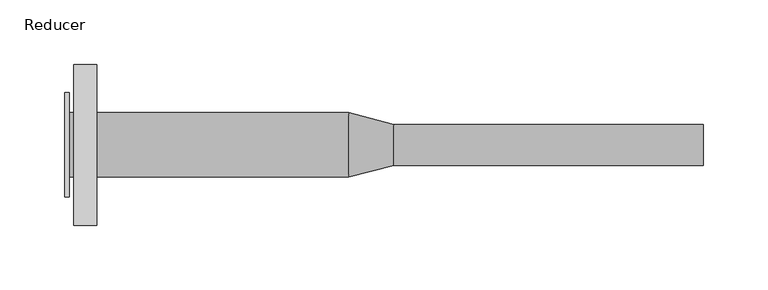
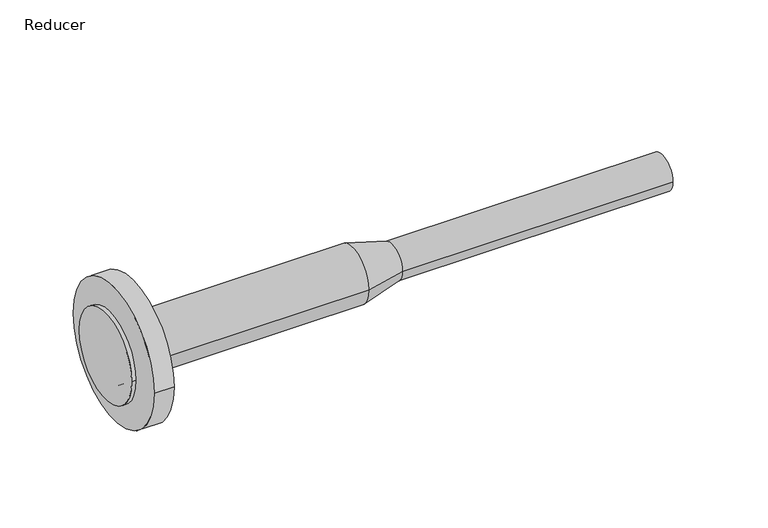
"""IFC4 building model written with IfcOpenShell, lengths in millimetres: pipe fitting geometry, Plumbing-Pipe-Fittings_Pexgol_Reducer : Reducer."""

from ifc_helpers import new_model, si_unit, point, frame, origin, origin_2d, place, context, project, spatial, polyline, circle_curve, trimmed, segment, composite_curve, outline, extrude, source, transform, mapped, element, save
from ifc_brep_helpers import plane_surface, cylinder_surface, revolved_surface, advanced_brep


def reducer_7f1960f9(model_context):
    return source(origin(), model_context, "Body", "SolidModel", [
        advanced_brep(
        [(257.5, -16.0, 0.0), (257.5, 16.0, 0.0), (257.5, 0.0, 0.0), (17.5, -16.0, 0.0), (17.5, 16.0, 0.0), (-17.5, -25.0, 0.0), (-17.5, 25.0, 0.0), (-233.8636364, -25.0, 0.0), (-233.8636364, 25.0, 0.0), (-233.8636364, 0.0, 0.0)],
        [
            (0, 1, circle_curve(frame((257.5, 0.0, 0.0), z_axis=(1.0, 0.0, 0.0), x_axis=(0.0, 1.0, 0.0)), 16.0)),
            (1, 2),
            (2, 0),
            (1, 0, circle_curve(frame((257.5, 0.0, 0.0), z_axis=(1.0, 0.0, 0.0), x_axis=(0.0, 1.0, 0.0)), 16.0)),
            (3, 4, circle_curve(frame((17.5, 0.0, 0.0), z_axis=(1.0, 0.0, 0.0), x_axis=(0.0, 1.0, 0.0)), 16.0)),
            (4, 1),
            (0, 3),
            (4, 3, circle_curve(frame((17.5, 0.0, 0.0), z_axis=(1.0, 0.0, 0.0), x_axis=(0.0, 1.0, 0.0)), 16.0)),
            (5, 6, circle_curve(frame((-17.5, 0.0, 0.0), z_axis=(1.0, 0.0, 0.0), x_axis=(0.0, 1.0, 0.0)), 25.0)),
            (6, 4),
            (3, 5),
            (6, 5, circle_curve(frame((-17.5, 0.0, 0.0), z_axis=(1.0, 0.0, 0.0), x_axis=(0.0, 1.0, 0.0)), 25.0)),
            (7, 8, circle_curve(frame((-233.8636364, 0.0, 0.0), z_axis=(1.0, 0.0, 0.0), x_axis=(0.0, 1.0, 0.0)), 25.0)),
            (8, 6),
            (5, 7),
            (8, 7, circle_curve(frame((-233.8636364, 0.0, 0.0), z_axis=(1.0, 0.0, 0.0), x_axis=(0.0, 1.0, 0.0)), 25.0)),
            (9, 8),
            (7, 9),
        ],
        [
            plane_surface(frame((257.5, 0.0, 0.0), z_axis=(1.0, 0.0, 0.0), x_axis=(0.0, 1.0, 0.0))),
            cylinder_surface(frame((2134.462963, 0.0, 0.0), z_axis=(-1.0, 0.0, 0.0), x_axis=(0.0, 1.0, 0.0)), 16.0),
            revolved_surface(polyline([(17.5, 16.0, 0.0), (-17.5, 25.0, 0.0)]), (2134.462963, 0.0, 0.0), (-1.0, 0.0, 0.0)),
            cylinder_surface(frame((2134.462963, 0.0, 0.0), z_axis=(-1.0, 0.0, 0.0), x_axis=(0.0, 1.0, 0.0)), 25.0),
            plane_surface(frame((-233.8636364, 0.0, 0.0), z_axis=(-1.0, 0.0, 0.0), x_axis=(0.0, 1.0, 0.0))),
        ],
        [
            (0, [[1, 2, 3]]),
            (0, [[4, -3, -2]]),
            (1, [[5, 6, -1, 7]]),
            (1, [[8, -7, -4, -6]]),
            (2, [[9, 10, -5, 11]]),
            (2, [[12, -11, -8, -10]]),
            (3, [[13, 14, -9, 15]]),
            (3, [[16, -15, -12, -14]]),
            (4, [[17, -13, 18]]),
            (4, [[-18, -16, -17]]),
        ],
    ),
        extrude(outline(composite_curve([segment(trimmed(circle_curve(origin_2d(), 62.5), [point((-62.5, 0.0))], [point((62.5, 0.0))], False, "CARTESIAN"), True, "CONTINUOUS"), segment(trimmed(circle_curve(origin_2d(), 62.5), [point((62.5, 0.0))], [point((-62.5, 0.0))], False, "CARTESIAN"), True, "CONTINUOUS")], self_intersect=False)), frame((-230.2272727, 0.0, 0.0), z_axis=(1.0, 0.0, 0.0), x_axis=(0.0, 1.0, 0.0)), (0.0, 0.0, 1.0), 17.5),
        extrude(outline(composite_curve([segment(trimmed(circle_curve(origin_2d(), 40.5), [point((-40.5, 0.0))], [point((40.5, 0.0))], False, "CARTESIAN"), True, "CONTINUOUS"), segment(trimmed(circle_curve(origin_2d(), 40.5), [point((40.5, 0.0))], [point((-40.5, 0.0))], False, "CARTESIAN"), True, "CONTINUOUS")], self_intersect=False)), frame((-237.5, 0.0, 0.0), z_axis=(1.0, 0.0, 0.0), x_axis=(0.0, 1.0, 0.0)), (0.0, 0.0, 1.0), 3.6363636),
    ])


if __name__ == "__main__":
    model = new_model("IFC4")
    model_context = context("Model", 3, world=origin())
    ifc_project = project(units=[si_unit("LENGTHUNIT", "METRE", prefix="MILLI")], contexts=[model_context])
    site = spatial("IfcSite", under=ifc_project)
    building = spatial("IfcBuilding", under=site)
    placement = place(None, origin())
    reducer_shape = reducer_7f1960f9(model_context)
    element("IfcPipeFitting", 1, ObjectType="Plumbing-Pipe-Fittings_Pexgol_Reducer : Reducer", at=placement, inside=building, context=model_context, shape_type="MappedRepresentation", body=[
        mapped(reducer_shape, transform((0.0, 0.0, 0.0), x_axis=(1.0, 0.0, 0.0), y_axis=(0.0, 1.0, 0.0), z_axis=(0.0, 0.0, 1.0))),
    ])
    save(model, "model.ifc")
